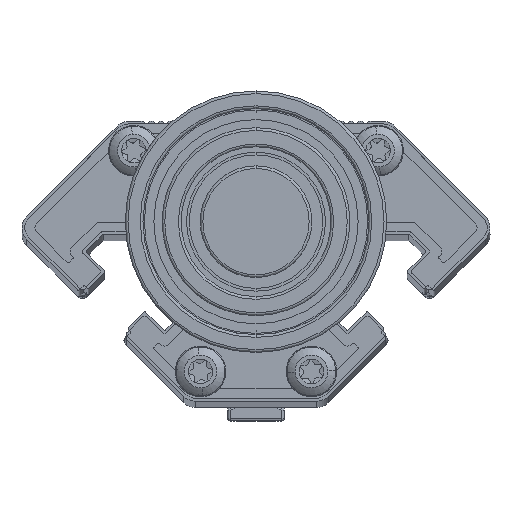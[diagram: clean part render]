
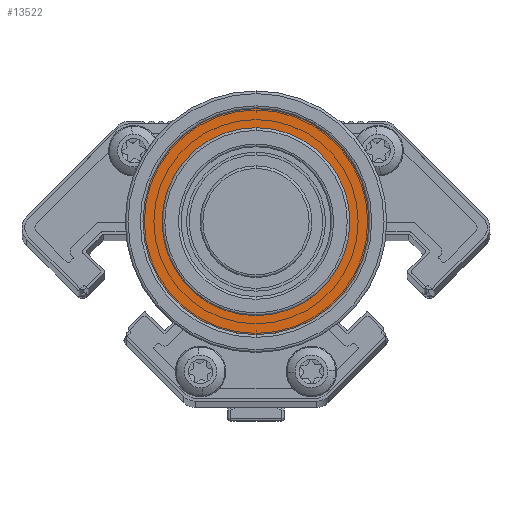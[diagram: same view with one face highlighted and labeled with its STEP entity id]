
A CAD part, top view. The second image highlights one B-rep face of the part: STEP entity #13522.
In plain terms, the highlighted planar face has unit normal (0, 0, 1).
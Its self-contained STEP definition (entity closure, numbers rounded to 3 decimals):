
#5965 = ORIENTED_EDGE ( 'NONE', *, *, #52639, .F. ) ;
#6423 = DIRECTION ( 'NONE',  ( 0., 1., 0. ) ) ;
#13522 = ADVANCED_FACE ( 'NONE', ( #46493, #89487 ), #18137, .T. ) ;
#18137 = PLANE ( 'NONE',  #30845 ) ;
#18667 = CARTESIAN_POINT ( 'NONE',  ( -53.777, 20.226, 389.745 ) ) ;
#19849 = AXIS2_PLACEMENT_3D ( 'NONE', #101957, #50523, #110595 ) ;
#24181 = CARTESIAN_POINT ( 'NONE',  ( -53.777, 2.976, 389.745 ) ) ;
#27258 = DIRECTION ( 'NONE',  ( 0., 1., 0. ) ) ;
#29038 = EDGE_CURVE ( 'NONE', #80213, #40878, #108567, .T. ) ;
#30845 = AXIS2_PLACEMENT_3D ( 'NONE', #35378, #44019, #104075 ) ;
#30955 = DIRECTION ( 'NONE',  ( 0., 0., -1. ) ) ;
#35378 = CARTESIAN_POINT ( 'NONE',  ( -74.527, 20.226, 389.745 ) ) ;
#36079 = ORIENTED_EDGE ( 'NONE', *, *, #29038, .T. ) ;
#38629 = VERTEX_POINT ( 'NONE', #51021 ) ;
#40878 = VERTEX_POINT ( 'NONE', #24181 ) ;
#43852 = CARTESIAN_POINT ( 'NONE',  ( -53.777, 37.476, 389.745 ) ) ;
#44019 = DIRECTION ( 'NONE',  ( 0., 0., 1. ) ) ;
#46493 = FACE_BOUND ( 'NONE', #47132, .T. ) ;
#47132 = EDGE_LOOP ( 'NONE', ( #36079, #48425 ) ) ;
#48425 = ORIENTED_EDGE ( 'NONE', *, *, #110954, .T. ) ;
#50523 = DIRECTION ( 'NONE',  ( 0., 0., -1. ) ) ;
#51021 = CARTESIAN_POINT ( 'NONE',  ( -53.777, 40.976, 389.745 ) ) ;
#51580 = EDGE_CURVE ( 'NONE', #71765, #38629, #56191, .T. ) ;
#52639 = EDGE_CURVE ( 'NONE', #38629, #71765, #65571, .T. ) ;
#56191 = CIRCLE ( 'NONE', #95424, 20.75 ) ;
#57790 = DIRECTION ( 'NONE',  ( 0., 0., -1. ) ) ;
#61877 = CIRCLE ( 'NONE', #92428, 17.25 ) ;
#65181 = ORIENTED_EDGE ( 'NONE', *, *, #51580, .F. ) ;
#65571 = CIRCLE ( 'NONE', #104159, 20.75 ) ;
#66977 = CARTESIAN_POINT ( 'NONE',  ( -53.777, -0.524, 389.745 ) ) ;
#71765 = VERTEX_POINT ( 'NONE', #66977 ) ;
#78682 = DIRECTION ( 'NONE',  ( 0., 0., -1. ) ) ;
#80213 = VERTEX_POINT ( 'NONE', #43852 ) ;
#82373 = CARTESIAN_POINT ( 'NONE',  ( -53.777, 20.226, 389.745 ) ) ;
#89487 = FACE_OUTER_BOUND ( 'NONE', #92130, .T. ) ;
#91029 = DIRECTION ( 'NONE',  ( 0., 1., 0. ) ) ;
#92130 = EDGE_LOOP ( 'NONE', ( #5965, #65181 ) ) ;
#92428 = AXIS2_PLACEMENT_3D ( 'NONE', #109198, #57790, #6423 ) ;
#95424 = AXIS2_PLACEMENT_3D ( 'NONE', #82373, #30955, #91029 ) ;
#101957 = CARTESIAN_POINT ( 'NONE',  ( -53.777, 20.226, 389.745 ) ) ;
#104075 = DIRECTION ( 'NONE',  ( 0., -1., 0. ) ) ;
#104159 = AXIS2_PLACEMENT_3D ( 'NONE', #18667, #78682, #27258 ) ;
#108567 = CIRCLE ( 'NONE', #19849, 17.25 ) ;
#109198 = CARTESIAN_POINT ( 'NONE',  ( -53.777, 20.226, 389.745 ) ) ;
#110595 = DIRECTION ( 'NONE',  ( 0., 1., 0. ) ) ;
#110954 = EDGE_CURVE ( 'NONE', #40878, #80213, #61877, .T. ) ;
